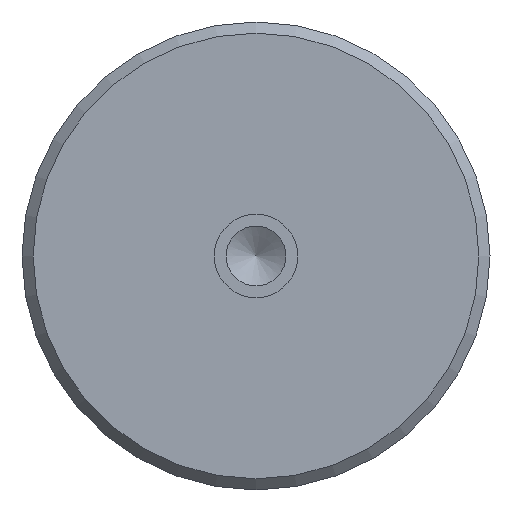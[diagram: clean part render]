
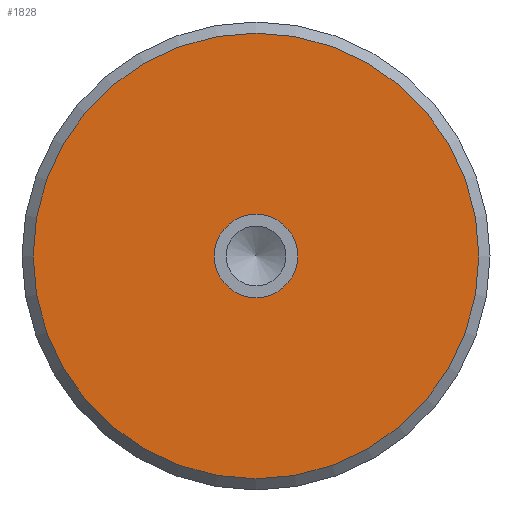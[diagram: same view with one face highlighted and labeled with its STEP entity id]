
A CAD part, front view. The second image highlights one B-rep face of the part: STEP entity #1828.
In plain terms, the highlighted planar face has unit normal (0, -1, 0).
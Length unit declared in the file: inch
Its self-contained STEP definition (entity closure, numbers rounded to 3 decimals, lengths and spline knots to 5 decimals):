
#106=FACE_BOUND('',#284,.T.);
#131=PLANE('',#1969);
#178=FACE_OUTER_BOUND('',#283,.T.);
#283=EDGE_LOOP('',(#1188));
#284=EDGE_LOOP('',(#1189,#1190));
#568=CIRCLE('',#1959,0.14764);
#569=CIRCLE('',#1960,0.14764);
#572=CIRCLE('',#1965,0.7874);
#708=VERTEX_POINT('',#2753);
#709=VERTEX_POINT('',#2754);
#712=VERTEX_POINT('',#2765);
#900=EDGE_CURVE('',#708,#709,#568,.T.);
#901=EDGE_CURVE('',#709,#708,#569,.T.);
#907=EDGE_CURVE('',#712,#712,#572,.T.);
#1188=ORIENTED_EDGE('',*,*,#907,.F.);
#1189=ORIENTED_EDGE('',*,*,#900,.T.);
#1190=ORIENTED_EDGE('',*,*,#901,.T.);
#1828=ADVANCED_FACE('',(#178,#106),#131,.F.);
#1959=AXIS2_PLACEMENT_3D('',#2755,#2205,#2206);
#1960=AXIS2_PLACEMENT_3D('',#2756,#2207,#2208);
#1965=AXIS2_PLACEMENT_3D('',#2767,#2220,#2221);
#1969=AXIS2_PLACEMENT_3D('',#2774,#2229,#2230);
#2205=DIRECTION('center_axis',(0.,1.,0.));
#2206=DIRECTION('ref_axis',(1.,0.,0.));
#2207=DIRECTION('center_axis',(0.,1.,0.));
#2208=DIRECTION('ref_axis',(1.,0.,0.));
#2220=DIRECTION('center_axis',(0.,1.,0.));
#2221=DIRECTION('ref_axis',(1.,0.,0.));
#2229=DIRECTION('center_axis',(0.,1.,0.));
#2230=DIRECTION('ref_axis',(0.,0.,1.));
#2753=CARTESIAN_POINT('',(-1.78698,-0.58165,-1.26944));
#2754=CARTESIAN_POINT('',(-2.08226,-0.58165,-1.26944));
#2755=CARTESIAN_POINT('Origin',(-1.93462,-0.58165,-1.26944));
#2756=CARTESIAN_POINT('Origin',(-1.93462,-0.58165,-1.26944));
#2765=CARTESIAN_POINT('',(-2.72202,-0.58165,-1.26944));
#2767=CARTESIAN_POINT('Origin',(-1.93462,-0.58165,-1.26944));
#2774=CARTESIAN_POINT('Origin',(-1.93462,-0.58165,-1.26944));
